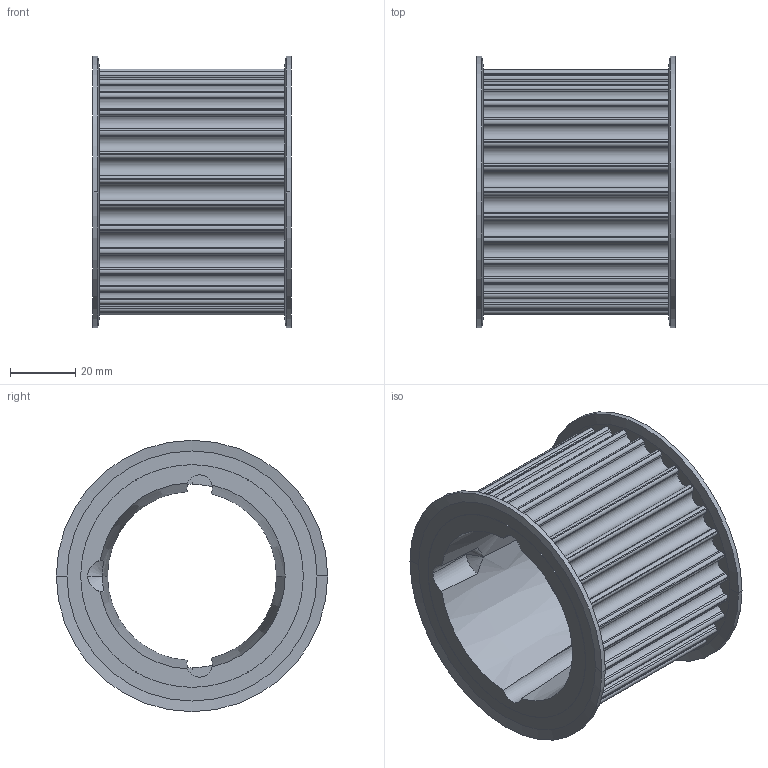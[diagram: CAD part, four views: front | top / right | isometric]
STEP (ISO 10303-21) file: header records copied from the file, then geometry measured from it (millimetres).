
FILE_DESCRIPTION( ( '' ), '1' );
FILE_NAME( 'C:/Users/Stangenbergd/Documents/CAD_Step/1/17477415.stp', '2021-10-19T10:20:17', ( '' ), ( '' ), ' ', ' ', ' ' );
FILE_SCHEMA( ( 'CONFIG_CONTROL_DESIGN' ) );
Length unit declared in the file: millimetre
Products named in the file (1): 1
Bounding box: 60.61 x 83 x 83 mm (x, y, z)
Volume: 91961.6 mm3; surface area: 40540.7 mm2
Topology: 1 solids, 1 shells, 344 faces, 1240 edges, 782 vertices
Faces by surface type: cylinder 258, plane 70, cone 14, torus 2
Entity records: 13838 total; most frequent: DIRECTION 2580, CARTESIAN_POINT 2507, ORIENTED_EDGE 2480, EDGE_CURVE 1240, AXIS2_PLACEMENT_3D 1007, VERTEX_POINT 782, CIRCLE 662, LINE 566
